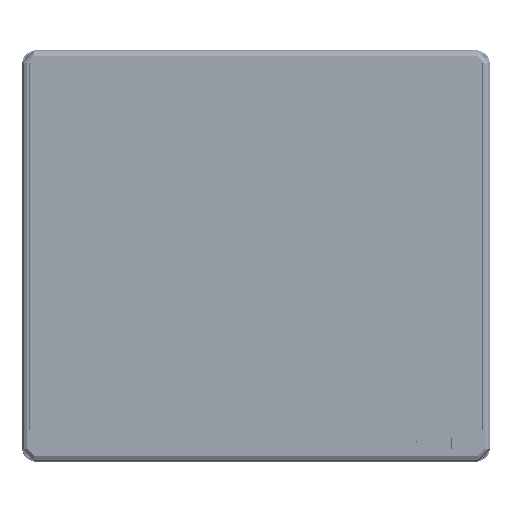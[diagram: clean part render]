
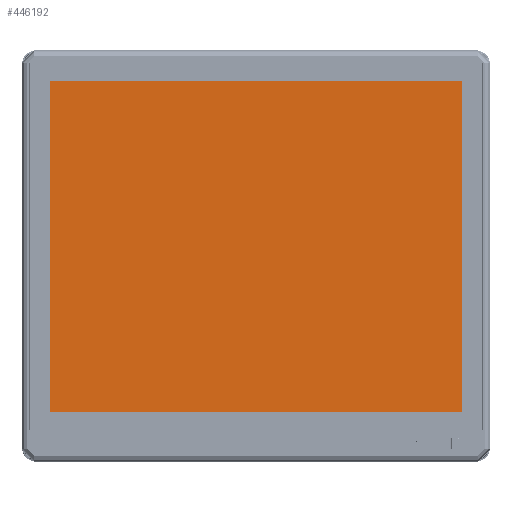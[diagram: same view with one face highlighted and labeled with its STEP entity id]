
A CAD part, top view. The second image highlights one B-rep face of the part: STEP entity #446192.
In plain terms, the highlighted planar face has unit normal (0, 0, 1).
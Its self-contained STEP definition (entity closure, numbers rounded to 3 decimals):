
#12587 = CARTESIAN_POINT ( 'NONE',  ( -367., -130.17, 400.768 ) ) ;
#13216 = CARTESIAN_POINT ( 'NONE',  ( 0.041, -130.272, 400.768 ) ) ;
#16929 = ORIENTED_EDGE ( 'NONE', *, *, #525953, .F. ) ;
#16932 = CARTESIAN_POINT ( 'NONE',  ( -369.959, -126.272, 400.768 ) ) ;
#25722 = B_SPLINE_CURVE_WITH_KNOTS ( 'NONE', 3,
 ( #696622, #769473, #369714, #565416 ),
 .UNSPECIFIED., .F., .F.,
 ( 4, 4 ),
 ( 0., 1. ),
 .UNSPECIFIED. ) ;
#42142 = EDGE_CURVE ( 'NONE', #351582, #845102, #714860, .T. ) ;
#54344 = CARTESIAN_POINT ( 'NONE',  ( 3.536, -128.286, 400.768 ) ) ;
#55968 = B_SPLINE_CURVE_WITH_KNOTS ( 'NONE', 3,
 ( #620411, #220532, #299274, #765922, #754471, #427602, #229166, #223405, #500501, #561868 ),
 .UNSPECIFIED., .F., .F.,
 ( 4, 2, 2, 2, 4 ),
 ( 0., 0.25, 0.5, 0.75, 1. ),
 .UNSPECIFIED. ) ;
#83923 = CARTESIAN_POINT ( 'NONE',  ( -369.959, 176.728, 400.768 ) ) ;
#86949 = EDGE_CURVE ( 'NONE', #783370, #256240, #700771, .T. ) ;
#91688 = AXIS2_PLACEMENT_3D ( 'NONE', #143389, #744343, #207555 ) ;
#122248 = B_SPLINE_CURVE_WITH_KNOTS ( 'NONE', 3,
 ( #406278, #403390, #137815, #803111, #467697, #204886, #613405, #12587, #805976, #347802 ),
 .UNSPECIFIED., .F., .F.,
 ( 4, 2, 2, 2, 4 ),
 ( 0., 0.25, 0.5, 0.75, 1. ),
 .UNSPECIFIED. ) ;
#126913 = FACE_OUTER_BOUND ( 'NONE', #726680, .T. ) ;
#137815 = CARTESIAN_POINT ( 'NONE',  ( -369.858, -127.313, 400.768 ) ) ;
#143389 = CARTESIAN_POINT ( 'NONE',  ( -182.959, 25.228, 400.768 ) ) ;
#151762 = ORIENTED_EDGE ( 'NONE', *, *, #329501, .T. ) ;
#160843 = CARTESIAN_POINT ( 'NONE',  ( -365.959, 180.728, 400.768 ) ) ;
#166146 = CARTESIAN_POINT ( 'NONE',  ( 4.041, 176.728, 400.768 ) ) ;
#175274 = CARTESIAN_POINT ( 'NONE',  ( -367.98, 180.221, 400.768 ) ) ;
#185399 = CARTESIAN_POINT ( 'NONE',  ( 2.499, -129.47, 400.768 ) ) ;
#193720 = CARTESIAN_POINT ( 'NONE',  ( -369.959, 176.728, 400.768 ) ) ;
#204886 = CARTESIAN_POINT ( 'NONE',  ( -368.413, -129.475, 400.768 ) ) ;
#207555 = DIRECTION ( 'NONE',  ( 1., 0., 0. ) ) ;
#220532 = CARTESIAN_POINT ( 'NONE',  ( 4.041, 177.258, 400.768 ) ) ;
#221835 = EDGE_CURVE ( 'NONE', #525450, #598787, #25722, .T. ) ;
#223405 = CARTESIAN_POINT ( 'NONE',  ( 1.081, 180.627, 400.768 ) ) ;
#228044 = CARTESIAN_POINT ( 'NONE',  ( -366.49, 180.728, 400.768 ) ) ;
#229166 = CARTESIAN_POINT ( 'NONE',  ( 2.061, 180.221, 400.768 ) ) ;
#230436 = CARTESIAN_POINT ( 'NONE',  ( 4.041, -25.272, 400.768 ) ) ;
#239614 = CARTESIAN_POINT ( 'NONE',  ( -367., 180.627, 400.768 ) ) ;
#256240 = VERTEX_POINT ( 'NONE', #336802 ) ;
#273128 = CARTESIAN_POINT ( 'NONE',  ( -365.959, 180.728, 400.768 ) ) ;
#282006 = CARTESIAN_POINT ( 'NONE',  ( 4.041, 176.728, 400.768 ) ) ;
#287533 = B_SPLINE_CURVE_WITH_KNOTS ( 'NONE', 3,
 ( #453969, #389623, #856507, #54344, #783690, #185399, #646601, #655224, #316872, #521120 ),
 .UNSPECIFIED., .F., .F.,
 ( 4, 2, 2, 2, 4 ),
 ( 0., 0.25, 0.5, 0.75, 1. ),
 .UNSPECIFIED. ) ;
#296340 = B_SPLINE_CURVE_WITH_KNOTS ( 'NONE', 3,
 ( #160843, #228044, #239614, #175274, #435151, #502172, #630803, #507988, #563634, #432251 ),
 .UNSPECIFIED., .F., .F.,
 ( 4, 2, 2, 2, 4 ),
 ( 0., 0.25, 0.5, 0.75, 1. ),
 .UNSPECIFIED. ) ;
#299274 = CARTESIAN_POINT ( 'NONE',  ( 3.939, 177.769, 400.768 ) ) ;
#316872 = CARTESIAN_POINT ( 'NONE',  ( 0.564, -130.272, 400.768 ) ) ;
#329501 = EDGE_CURVE ( 'NONE', #744866, #772368, #670077, .T. ) ;
#336802 = CARTESIAN_POINT ( 'NONE',  ( -369.959, -126.272, 400.768 ) ) ;
#347802 = CARTESIAN_POINT ( 'NONE',  ( -365.959, -130.272, 400.768 ) ) ;
#351054 = EDGE_CURVE ( 'NONE', #772368, #783370, #296340, .T. ) ;
#351582 = VERTEX_POINT ( 'NONE', #699587 ) ;
#357223 = CARTESIAN_POINT ( 'NONE',  ( -243.959, 180.728, 400.768 ) ) ;
#358845 = CARTESIAN_POINT ( 'NONE',  ( 4.041, 75.728, 400.768 ) ) ;
#369714 = CARTESIAN_POINT ( 'NONE',  ( -121.959, -130.272, 400.768 ) ) ;
#370899 = CARTESIAN_POINT ( 'NONE',  ( 0.041, 180.728, 400.768 ) ) ;
#389623 = CARTESIAN_POINT ( 'NONE',  ( 4.041, -126.795, 400.768 ) ) ;
#403390 = CARTESIAN_POINT ( 'NONE',  ( -369.959, -126.802, 400.768 ) ) ;
#406278 = CARTESIAN_POINT ( 'NONE',  ( -369.959, -126.272, 400.768 ) ) ;
#427602 = CARTESIAN_POINT ( 'NONE',  ( 2.494, 179.932, 400.768 ) ) ;
#432251 = CARTESIAN_POINT ( 'NONE',  ( -369.959, 176.728, 400.768 ) ) ;
#435151 = CARTESIAN_POINT ( 'NONE',  ( -368.413, 179.931, 400.768 ) ) ;
#446192 = ADVANCED_FACE ( 'NONE', ( #126913 ), #481697, .T. ) ;
#453969 = CARTESIAN_POINT ( 'NONE',  ( 4.041, -126.272, 400.768 ) ) ;
#467697 = CARTESIAN_POINT ( 'NONE',  ( -369.163, -128.725, 400.768 ) ) ;
#481697 = PLANE ( 'NONE',  #91688 ) ;
#482850 = CARTESIAN_POINT ( 'NONE',  ( -365.959, 180.728, 400.768 ) ) ;
#500501 = CARTESIAN_POINT ( 'NONE',  ( 0.571, 180.728, 400.768 ) ) ;
#502172 = CARTESIAN_POINT ( 'NONE',  ( -369.163, 179.182, 400.768 ) ) ;
#507988 = CARTESIAN_POINT ( 'NONE',  ( -369.858, 177.769, 400.768 ) ) ;
#520985 = ORIENTED_EDGE ( 'NONE', *, *, #42142, .T. ) ;
#521120 = CARTESIAN_POINT ( 'NONE',  ( 0.041, -130.272, 400.768 ) ) ;
#525450 = VERTEX_POINT ( 'NONE', #649509 ) ;
#525953 = EDGE_CURVE ( 'NONE', #351582, #598787, #287533, .T. ) ;
#526250 = ORIENTED_EDGE ( 'NONE', *, *, #86949, .T. ) ;
#542420 = ORIENTED_EDGE ( 'NONE', *, *, #638906, .T. ) ;
#552903 = CARTESIAN_POINT ( 'NONE',  ( -121.959, 180.728, 400.768 ) ) ;
#553551 = CARTESIAN_POINT ( 'NONE',  ( -369.959, -25.272, 400.768 ) ) ;
#556423 = CARTESIAN_POINT ( 'NONE',  ( -369.959, 75.728, 400.768 ) ) ;
#560227 = CARTESIAN_POINT ( 'NONE',  ( 4.041, -126.272, 400.768 ) ) ;
#561868 = CARTESIAN_POINT ( 'NONE',  ( 0.041, 180.728, 400.768 ) ) ;
#563634 = CARTESIAN_POINT ( 'NONE',  ( -369.959, 177.259, 400.768 ) ) ;
#565416 = CARTESIAN_POINT ( 'NONE',  ( 0.041, -130.272, 400.768 ) ) ;
#598787 = VERTEX_POINT ( 'NONE', #13216 ) ;
#613405 = CARTESIAN_POINT ( 'NONE',  ( -367.98, -129.764, 400.768 ) ) ;
#620411 = CARTESIAN_POINT ( 'NONE',  ( 4.041, 176.728, 400.768 ) ) ;
#630803 = CARTESIAN_POINT ( 'NONE',  ( -369.452, 178.749, 400.768 ) ) ;
#638906 = EDGE_CURVE ( 'NONE', #256240, #525450, #122248, .T. ) ;
#646601 = CARTESIAN_POINT ( 'NONE',  ( 2.055, -129.767, 400.768 ) ) ;
#649509 = CARTESIAN_POINT ( 'NONE',  ( -365.959, -130.272, 400.768 ) ) ;
#652082 = EDGE_CURVE ( 'NONE', #845102, #744866, #55968, .T. ) ;
#655224 = CARTESIAN_POINT ( 'NONE',  ( 1.088, -130.168, 400.768 ) ) ;
#670077 = B_SPLINE_CURVE_WITH_KNOTS ( 'NONE', 3,
 ( #692715, #552903, #357223, #482850 ),
 .UNSPECIFIED., .F., .F.,
 ( 4, 4 ),
 ( 0., 1. ),
 .UNSPECIFIED. ) ;
#675671 = ORIENTED_EDGE ( 'NONE', *, *, #351054, .T. ) ;
#692715 = CARTESIAN_POINT ( 'NONE',  ( 0.041, 180.728, 400.768 ) ) ;
#696622 = CARTESIAN_POINT ( 'NONE',  ( -365.959, -130.272, 400.768 ) ) ;
#699587 = CARTESIAN_POINT ( 'NONE',  ( 4.041, -126.272, 400.768 ) ) ;
#700771 = B_SPLINE_CURVE_WITH_KNOTS ( 'NONE', 3,
 ( #83923, #556423, #553551, #16932 ),
 .UNSPECIFIED., .F., .F.,
 ( 4, 4 ),
 ( 0., 1. ),
 .UNSPECIFIED. ) ;
#714860 = B_SPLINE_CURVE_WITH_KNOTS ( 'NONE', 3,
 ( #560227, #230436, #358845, #166146 ),
 .UNSPECIFIED., .F., .F.,
 ( 4, 4 ),
 ( 0., 1. ),
 .UNSPECIFIED. ) ;
#726602 = ORIENTED_EDGE ( 'NONE', *, *, #652082, .T. ) ;
#726680 = EDGE_LOOP ( 'NONE', ( #526250, #542420, #786174, #16929, #520985, #726602, #151762, #675671 ) ) ;
#744343 = DIRECTION ( 'NONE',  ( 0., 0., 1. ) ) ;
#744866 = VERTEX_POINT ( 'NONE', #370899 ) ;
#754471 = CARTESIAN_POINT ( 'NONE',  ( 3.244, 179.182, 400.768 ) ) ;
#765922 = CARTESIAN_POINT ( 'NONE',  ( 3.533, 178.749, 400.768 ) ) ;
#769473 = CARTESIAN_POINT ( 'NONE',  ( -243.959, -130.272, 400.768 ) ) ;
#772368 = VERTEX_POINT ( 'NONE', #273128 ) ;
#783370 = VERTEX_POINT ( 'NONE', #193720 ) ;
#783690 = CARTESIAN_POINT ( 'NONE',  ( 3.239, -128.73, 400.768 ) ) ;
#786174 = ORIENTED_EDGE ( 'NONE', *, *, #221835, .T. ) ;
#803111 = CARTESIAN_POINT ( 'NONE',  ( -369.452, -128.292, 400.768 ) ) ;
#805976 = CARTESIAN_POINT ( 'NONE',  ( -366.49, -130.272, 400.768 ) ) ;
#845102 = VERTEX_POINT ( 'NONE', #282006 ) ;
#856507 = CARTESIAN_POINT ( 'NONE',  ( 3.936, -127.319, 400.768 ) ) ;
